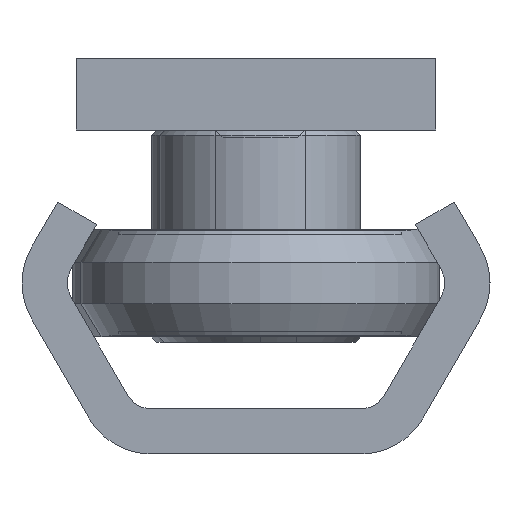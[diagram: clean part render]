
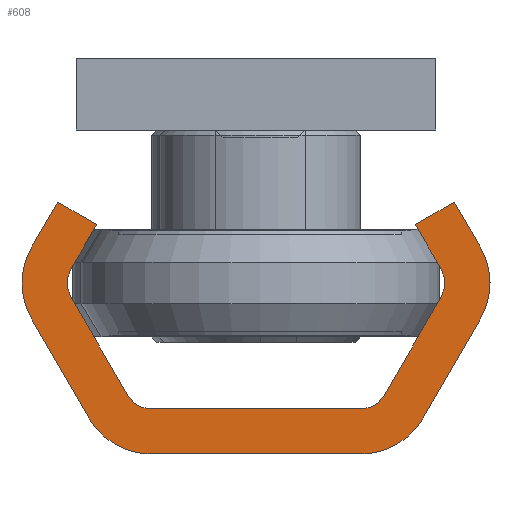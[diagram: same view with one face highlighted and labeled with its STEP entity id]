
A CAD part, left-side view. The second image highlights one B-rep face of the part: STEP entity #608.
In plain terms, the highlighted planar face has unit normal (-1, 0, 0).
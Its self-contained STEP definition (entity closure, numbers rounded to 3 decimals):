
#608 = ADVANCED_FACE( '', ( #1282 ), #1283, .F. );
#1282 = FACE_OUTER_BOUND( '', #2154, .T. );
#1283 = PLANE( '', #2155 );
#2154 = EDGE_LOOP( '', ( #3317, #3318, #3319, #3320, #3321, #3322, #3323, #3324, #3325, #3326, #3327, #3328, #3329, #3330, #3331, #3332, #3333, #3334, #3335, #3336 ) );
#2155 = AXIS2_PLACEMENT_3D( '', #3337, #3338, #3339 );
#3317 = ORIENTED_EDGE( '', *, *, #3895, .F. );
#3318 = ORIENTED_EDGE( '', *, *, #3787, .F. );
#3319 = ORIENTED_EDGE( '', *, *, #3968, .F. );
#3320 = ORIENTED_EDGE( '', *, *, #3846, .F. );
#3321 = ORIENTED_EDGE( '', *, *, #3909, .F. );
#3322 = ORIENTED_EDGE( '', *, *, #3532, .F. );
#3323 = ORIENTED_EDGE( '', *, *, #3945, .F. );
#3324 = ORIENTED_EDGE( '', *, *, #3969, .T. );
#3325 = ORIENTED_EDGE( '', *, *, #3915, .F. );
#3326 = ORIENTED_EDGE( '', *, *, #3717, .T. );
#3327 = ORIENTED_EDGE( '', *, *, #3560, .F. );
#3328 = ORIENTED_EDGE( '', *, *, #3900, .T. );
#3329 = ORIENTED_EDGE( '', *, *, #3527, .F. );
#3330 = ORIENTED_EDGE( '', *, *, #3762, .T. );
#3331 = ORIENTED_EDGE( '', *, *, #3603, .F. );
#3332 = ORIENTED_EDGE( '', *, *, #3729, .F. );
#3333 = ORIENTED_EDGE( '', *, *, #3832, .F. );
#3334 = ORIENTED_EDGE( '', *, *, #3970, .F. );
#3335 = ORIENTED_EDGE( '', *, *, #3876, .F. );
#3336 = ORIENTED_EDGE( '', *, *, #3918, .F. );
#3337 = CARTESIAN_POINT( '', ( 0., -5.825, -4. ) );
#3338 = DIRECTION( '', ( 1., 0., 0. ) );
#3339 = DIRECTION( '', ( 0., 0., -1. ) );
#3527 = EDGE_CURVE( '', #4006, #4007, #4008, .T. );
#3532 = EDGE_CURVE( '', #4015, #4016, #4017, .T. );
#3560 = EDGE_CURVE( '', #4069, #4070, #4071, .T. );
#3603 = EDGE_CURVE( '', #4146, #4147, #4148, .T. );
#3717 = EDGE_CURVE( '', #4332, #4070, #4333, .T. );
#3729 = EDGE_CURVE( '', #4348, #4146, #4349, .T. );
#3762 = EDGE_CURVE( '', #4006, #4147, #4396, .T. );
#3787 = EDGE_CURVE( '', #4430, #4431, #4432, .T. );
#3832 = EDGE_CURVE( '', #4496, #4348, #4497, .T. );
#3846 = EDGE_CURVE( '', #4516, #4517, #4518, .T. );
#3876 = EDGE_CURVE( '', #4563, #4564, #4565, .T. );
#3895 = EDGE_CURVE( '', #4431, #4594, #4595, .T. );
#3900 = EDGE_CURVE( '', #4069, #4007, #4601, .T. );
#3909 = EDGE_CURVE( '', #4016, #4516, #4612, .T. );
#3915 = EDGE_CURVE( '', #4332, #4619, #4620, .T. );
#3918 = EDGE_CURVE( '', #4594, #4563, #4623, .T. );
#3945 = EDGE_CURVE( '', #4653, #4015, #4654, .T. );
#3968 = EDGE_CURVE( '', #4517, #4430, #4679, .T. );
#3969 = EDGE_CURVE( '', #4653, #4619, #4680, .T. );
#3970 = EDGE_CURVE( '', #4564, #4496, #4681, .T. );
#4006 = VERTEX_POINT( '', #4718 );
#4007 = VERTEX_POINT( '', #4719 );
#4008 = LINE( '', #4720, #4721 );
#4015 = VERTEX_POINT( '', #4731 );
#4016 = VERTEX_POINT( '', #4732 );
#4017 = LINE( '', #4733, #4734 );
#4069 = VERTEX_POINT( '', #4790 );
#4070 = VERTEX_POINT( '', #4791 );
#4071 = LINE( '', #4792, #4793 );
#4146 = VERTEX_POINT( '', #4886 );
#4147 = VERTEX_POINT( '', #4887 );
#4148 = LINE( '', #4888, #4889 );
#4332 = VERTEX_POINT( '', #5108 );
#4333 = CIRCLE( '', #5109, 1.5 );
#4348 = VERTEX_POINT( '', #5131 );
#4349 = LINE( '', #5132, #5133 );
#4396 = CIRCLE( '', #5186, 1.5 );
#4430 = VERTEX_POINT( '', #5225 );
#4431 = VERTEX_POINT( '', #5226 );
#4432 = CIRCLE( '', #5227, 4. );
#4496 = VERTEX_POINT( '', #5297 );
#4497 = LINE( '', #5298, #5299 );
#4516 = VERTEX_POINT( '', #5320 );
#4517 = VERTEX_POINT( '', #5321 );
#4518 = CIRCLE( '', #5322, 4. );
#4563 = VERTEX_POINT( '', #5376 );
#4564 = VERTEX_POINT( '', #5377 );
#4565 = LINE( '', #5378, #5379 );
#4594 = VERTEX_POINT( '', #5412 );
#4595 = LINE( '', #5413, #5414 );
#4601 = CIRCLE( '', #5421, 1.5 );
#4612 = LINE( '', #5432, #5433 );
#4619 = VERTEX_POINT( '', #5440 );
#4620 = LINE( '', #5441, #5442 );
#4623 = CIRCLE( '', #5446, 4. );
#4653 = VERTEX_POINT( '', #5483 );
#4654 = LINE( '', #5484, #5485 );
#4679 = LINE( '', #5515, #5516 );
#4680 = CIRCLE( '', #5517, 1.5 );
#4681 = CIRCLE( '', #5518, 4. );
#4718 = CARTESIAN_POINT( '', ( 0., -10.299, -8.75 ) );
#4719 = CARTESIAN_POINT( '', ( 0., -7.124, -3.25 ) );
#4720 = CARTESIAN_POINT( '', ( 0., -10.299, -8.75 ) );
#4721 = VECTOR( '', #5557, 1000. );
#4731 = CARTESIAN_POINT( '', ( 0., 8.856, -12.75 ) );
#4732 = CARTESIAN_POINT( '', ( 0., 11.021, -14. ) );
#4733 = CARTESIAN_POINT( '', ( 0., 8.856, -12.75 ) );
#4734 = VECTOR( '', #5561, 1000. );
#4790 = CARTESIAN_POINT( '', ( 0., -5.825, -2.5 ) );
#4791 = CARTESIAN_POINT( '', ( 0., 5.825, -2.5 ) );
#4792 = CARTESIAN_POINT( '', ( 0., -5.825, -2.5 ) );
#4793 = VECTOR( '', #5629, 1000. );
#4886 = CARTESIAN_POINT( '', ( 0., -8.856, -12.75 ) );
#4887 = CARTESIAN_POINT( '', ( 0., -10.299, -10.25 ) );
#4888 = CARTESIAN_POINT( '', ( 0., -8.856, -12.75 ) );
#4889 = VECTOR( '', #5696, 1000. );
#5108 = CARTESIAN_POINT( '', ( 0., 7.124, -3.25 ) );
#5109 = AXIS2_PLACEMENT_3D( '', #5885, #5886, #5887 );
#5131 = CARTESIAN_POINT( '', ( 0., -11.021, -14. ) );
#5132 = CARTESIAN_POINT( '', ( 0., -11.021, -14. ) );
#5133 = VECTOR( '', #5898, 1000. );
#5186 = AXIS2_PLACEMENT_3D( '', #5944, #5945, #5946 );
#5225 = CARTESIAN_POINT( '', ( 0., 9.289, -2. ) );
#5226 = CARTESIAN_POINT( '', ( 0., 5.825, 0. ) );
#5227 = AXIS2_PLACEMENT_3D( '', #5979, #5980, #5981 );
#5297 = CARTESIAN_POINT( '', ( 0., -12.464, -11.5 ) );
#5298 = CARTESIAN_POINT( '', ( 0., -12.464, -11.5 ) );
#5299 = VECTOR( '', #6039, 1000. );
#5320 = CARTESIAN_POINT( '', ( 0., 12.464, -11.5 ) );
#5321 = CARTESIAN_POINT( '', ( 0., 12.464, -7.5 ) );
#5322 = AXIS2_PLACEMENT_3D( '', #6057, #6058, #6059 );
#5376 = CARTESIAN_POINT( '', ( 0., -9.289, -2. ) );
#5377 = CARTESIAN_POINT( '', ( 0., -12.464, -7.5 ) );
#5378 = CARTESIAN_POINT( '', ( 0., -9.289, -2. ) );
#5379 = VECTOR( '', #6105, 1000. );
#5412 = CARTESIAN_POINT( '', ( 0., -5.825, 0. ) );
#5413 = CARTESIAN_POINT( '', ( 0., 5.825, 0. ) );
#5414 = VECTOR( '', #6140, 1000. );
#5421 = AXIS2_PLACEMENT_3D( '', #6145, #6146, #6147 );
#5432 = CARTESIAN_POINT( '', ( 0., 11.021, -14. ) );
#5433 = VECTOR( '', #6154, 1000. );
#5440 = CARTESIAN_POINT( '', ( 0., 10.299, -8.75 ) );
#5441 = CARTESIAN_POINT( '', ( 0., 7.124, -3.25 ) );
#5442 = VECTOR( '', #6158, 1000. );
#5446 = AXIS2_PLACEMENT_3D( '', #6160, #6161, #6162 );
#5483 = CARTESIAN_POINT( '', ( 0., 10.299, -10.25 ) );
#5484 = CARTESIAN_POINT( '', ( 0., 10.299, -10.25 ) );
#5485 = VECTOR( '', #6185, 1000. );
#5515 = CARTESIAN_POINT( '', ( 0., 12.464, -7.5 ) );
#5516 = VECTOR( '', #6197, 1000. );
#5517 = AXIS2_PLACEMENT_3D( '', #6198, #6199, #6200 );
#5518 = AXIS2_PLACEMENT_3D( '', #6201, #6202, #6203 );
#5557 = DIRECTION( '', ( 0., 0.5, 0.866 ) );
#5561 = DIRECTION( '', ( 0., 0.866, -0.5 ) );
#5629 = DIRECTION( '', ( 0., 1., 0. ) );
#5696 = DIRECTION( '', ( 0., -0.5, 0.866 ) );
#5885 = CARTESIAN_POINT( '', ( 0., 5.825, -4. ) );
#5886 = DIRECTION( '', ( 1., 0., 0. ) );
#5887 = DIRECTION( '', ( 0., 0., -1. ) );
#5898 = DIRECTION( '', ( 0., 0.866, 0.5 ) );
#5944 = CARTESIAN_POINT( '', ( 0., -9., -9.5 ) );
#5945 = DIRECTION( '', ( 1., 0., 0. ) );
#5946 = DIRECTION( '', ( 0., 0., -1. ) );
#5979 = CARTESIAN_POINT( '', ( 0., 5.825, -4. ) );
#5980 = DIRECTION( '', ( 1., 0., 0. ) );
#5981 = DIRECTION( '', ( 0., 0., -1. ) );
#6039 = DIRECTION( '', ( 0., 0.5, -0.866 ) );
#6057 = CARTESIAN_POINT( '', ( 0., 9., -9.5 ) );
#6058 = DIRECTION( '', ( 1., 0., 0. ) );
#6059 = DIRECTION( '', ( 0., 0., -1. ) );
#6105 = DIRECTION( '', ( 0., -0.5, -0.866 ) );
#6140 = DIRECTION( '', ( 0., -1., 0. ) );
#6145 = CARTESIAN_POINT( '', ( 0., -5.825, -4. ) );
#6146 = DIRECTION( '', ( 1., 0., 0. ) );
#6147 = DIRECTION( '', ( 0., 0., -1. ) );
#6154 = DIRECTION( '', ( 0., 0.5, 0.866 ) );
#6158 = DIRECTION( '', ( 0., 0.5, -0.866 ) );
#6160 = CARTESIAN_POINT( '', ( 0., -5.825, -4. ) );
#6161 = DIRECTION( '', ( 1., 0., 0. ) );
#6162 = DIRECTION( '', ( 0., 0., -1. ) );
#6185 = DIRECTION( '', ( 0., -0.5, -0.866 ) );
#6197 = DIRECTION( '', ( 0., -0.5, 0.866 ) );
#6198 = CARTESIAN_POINT( '', ( 0., 9., -9.5 ) );
#6199 = DIRECTION( '', ( 1., 0., 0. ) );
#6200 = DIRECTION( '', ( 0., 0., -1. ) );
#6201 = CARTESIAN_POINT( '', ( 0., -9., -9.5 ) );
#6202 = DIRECTION( '', ( 1., 0., 0. ) );
#6203 = DIRECTION( '', ( 0., 0., -1. ) );
